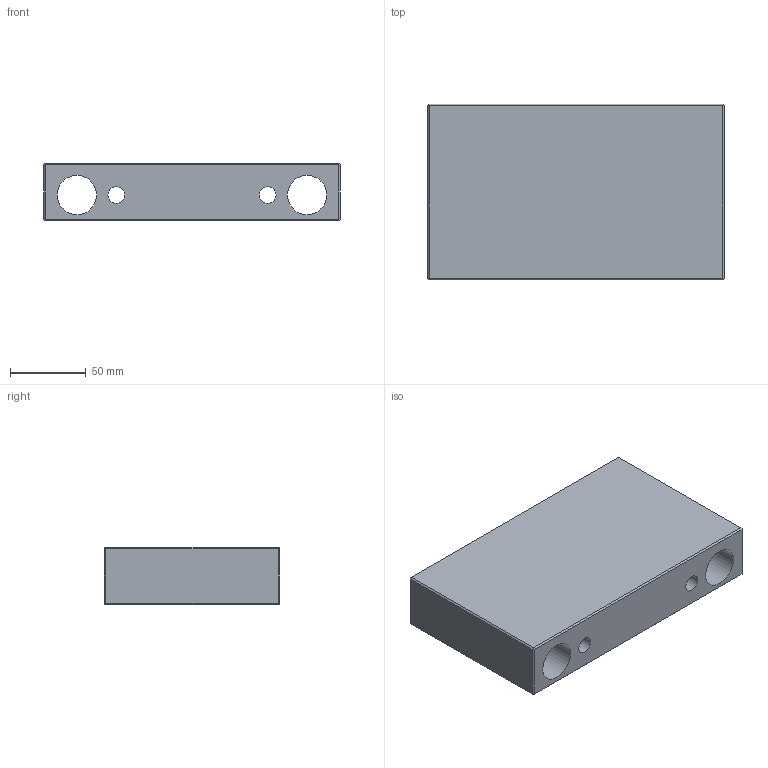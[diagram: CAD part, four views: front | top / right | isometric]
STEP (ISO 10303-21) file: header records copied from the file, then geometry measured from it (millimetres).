
FILE_DESCRIPTION(/* description */ ('STEP AP214'),/* implementation_level */ '2;1');
FILE_NAME(/* name */ 'KM0401961961161730',/* time_stamp */ '2026-06-23T08:57:38+02:00',/* author */ ('License CC BY-ND 4.0'),/* organization */ ('CADENAS'),/* preprocessor_version */ 'ST-DEVELOPER v20',/* originating_system */ 'PARTsolutions',/* authorisation */ ' ');
FILE_SCHEMA (('AUTOMOTIVE_DESIGN {1 0 10303 214 3 1 1}'));
Length unit declared in the file: millimetre
Products named in the file (1): KM0401961961161730
Bounding box: 196 x 116 x 38 mm (x, y, z)
Volume: 718050.7 mm3; surface area: 92826 mm2
Topology: 1 solids, 1 shells, 22 faces, 60 edges, 40 vertices
Faces by surface type: plane 18, cylinder 4
Full cylindrical faces by diameter (mm): 11 x2, 26 x2
Entity records: 718 total; most frequent: CARTESIAN_POINT 119, ORIENTED_EDGE 112, DIRECTION 110, EDGE_CURVE 56, LINE 48, VECTOR 48, VERTEX_POINT 40, EDGE_LOOP 34
